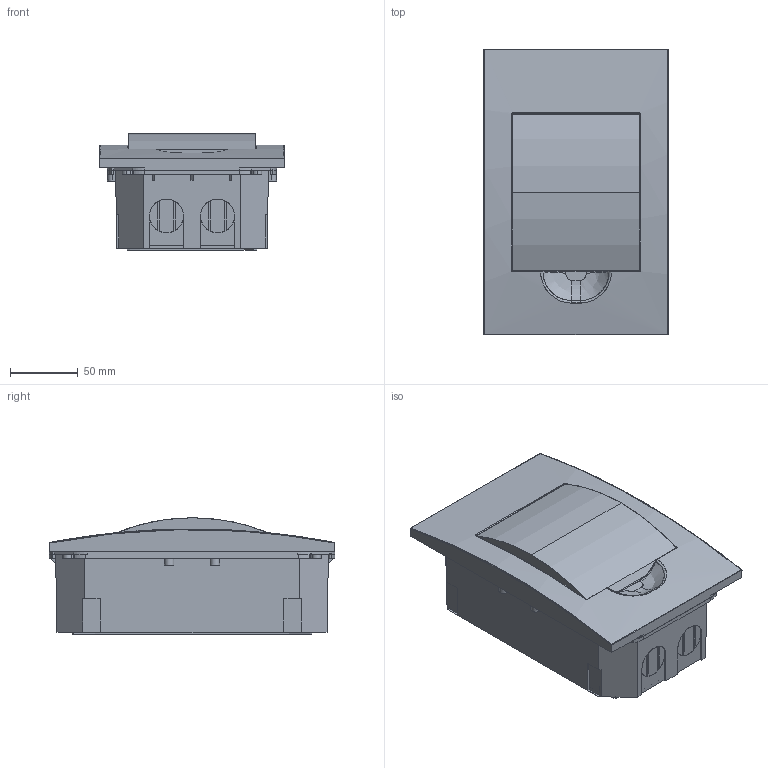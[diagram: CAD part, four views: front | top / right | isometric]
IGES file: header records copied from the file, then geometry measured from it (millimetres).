
Start section: SolidWorks IGES file using analytic representation for surfaces
Global section: file name: C:\Users\Rodrigo\Desktop\weg1\2014\QDW02\QDW02 E&F\QDW02-E\QDW02-4-E\conversão\QDW02-4-E.IGS; native system: SolidWorks 2012; preprocessor: SolidWorks 2012; author: Rodrigo; date: 140213.102812; units: millimetre
Bounding box: 136 x 211.1 x 86.17 mm (x, y, z)
Surface area: 205374.4 mm2 (no closed solid volume)
Topology: 0 solids, 0 shells, 467 faces, 4809 edges, 4809 vertices
Faces by surface type: bspline 326, revolution 141
